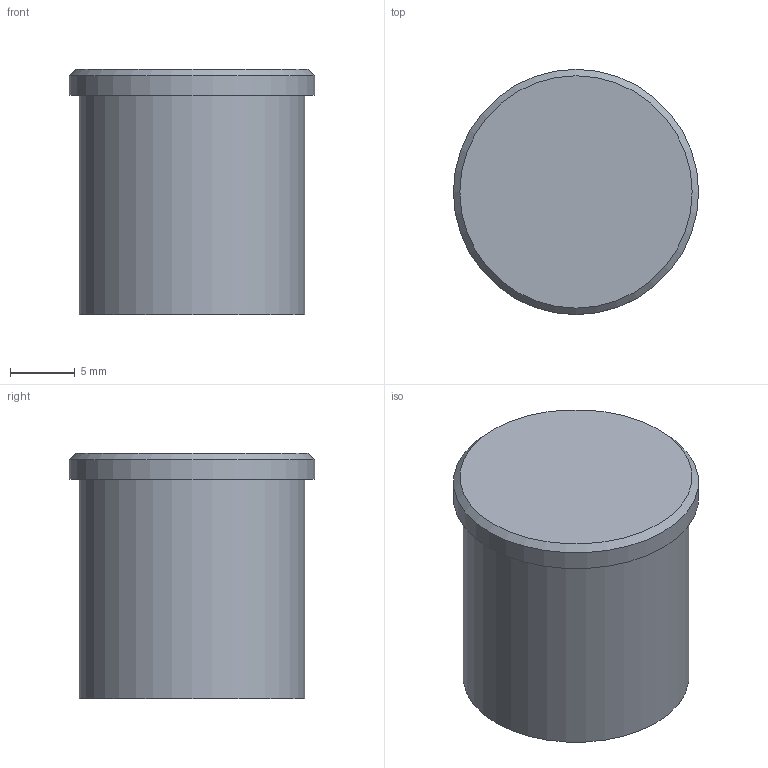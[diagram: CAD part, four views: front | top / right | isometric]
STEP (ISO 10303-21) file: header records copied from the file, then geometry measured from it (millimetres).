
FILE_DESCRIPTION (( 'STEP AP214' ), '1' );
FILE_NAME ('ﾂﾇﾊﾂ2ﾀ.STEP', '2021-05-19T08:08:18', ( '' ), ( '' ), 'SwSTEP 2.0', 'SolidWorks 2018', '' );
FILE_SCHEMA (( 'AUTOMOTIVE_DESIGN' ));
Length unit declared in the file: millimetre
Products named in the file (1): ﾂﾇﾊﾂ2ﾀ
Bounding box: 19 x 19 x 19 mm (x, y, z)
Volume: 2930.6 mm3; surface area: 2153 mm2
Topology: 1 solids, 1 shells, 8 faces, 11 edges, 7 vertices
Faces by surface type: plane 4, cylinder 3, cone 1
Full cylindrical faces by diameter (mm): 12.5 x1, 17.5 x1, 19 x1
Entity records: 188 total; most frequent: DIRECTION 32, CARTESIAN_POINT 23, AXIS2_PLACEMENT_3D 16, EDGE_LOOP 14, ORIENTED_EDGE 14, FACE_OUTER_BOUND 11, ADVANCED_FACE 8, EDGE_CURVE 7
